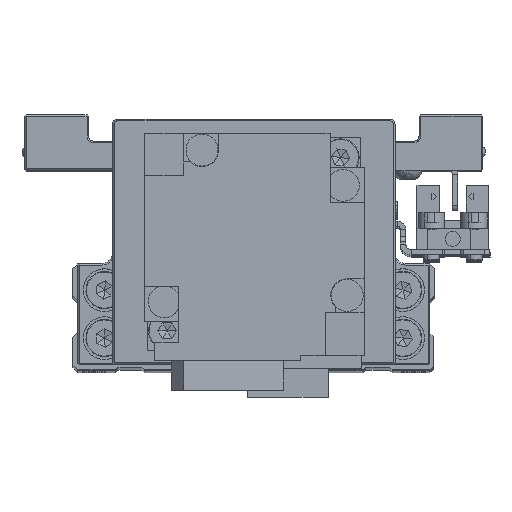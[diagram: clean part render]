
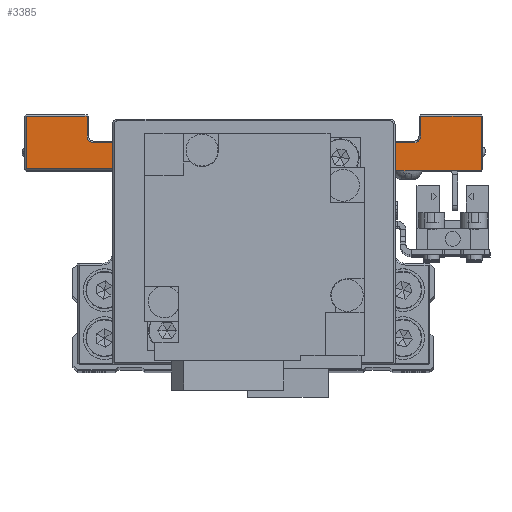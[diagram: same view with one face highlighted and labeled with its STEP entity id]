
A CAD part, top view. The second image highlights one B-rep face of the part: STEP entity #3385.
In plain terms, the highlighted planar face has unit normal (0, 0, 1) as drawn and (1, 0, 0) by its records, which use the part's own axes.
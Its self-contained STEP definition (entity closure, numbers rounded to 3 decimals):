
#498 = DIRECTION ( 'NONE',  ( 0., 1., 0. ) ) ;
#838 = LINE ( 'NONE', #11612, #25899 ) ;
#1078 = VECTOR ( 'NONE', #15720, 1000. ) ;
#1522 = CARTESIAN_POINT ( 'NONE',  ( 45., 14., 31.3 ) ) ;
#1638 = EDGE_CURVE ( 'NONE', #2466, #34713, #28404, .T. ) ;
#2051 = CARTESIAN_POINT ( 'NONE',  ( 45., 14., 30. ) ) ;
#2125 = CARTESIAN_POINT ( 'NONE',  ( 45., 17.7, -42.7 ) ) ;
#2466 = VERTEX_POINT ( 'NONE', #22934 ) ;
#2631 = CARTESIAN_POINT ( 'NONE',  ( 45., 7.8, 42.7 ) ) ;
#2636 = DIRECTION ( 'NONE',  ( 0., 0., 1. ) ) ;
#2905 = VERTEX_POINT ( 'NONE', #20089 ) ;
#3174 = AXIS2_PLACEMENT_3D ( 'NONE', #6225, #16985, #27726 ) ;
#3385 = ADVANCED_FACE ( 'NONE', ( #34243 ), #10126, .F. ) ;
#3640 = EDGE_CURVE ( 'NONE', #14885, #22810, #18398, .T. ) ;
#3825 = LINE ( 'NONE', #14600, #13615 ) ;
#4572 = LINE ( 'NONE', #15340, #20771 ) ;
#4896 = EDGE_CURVE ( 'NONE', #31891, #29689, #10703, .T. ) ;
#4973 = CARTESIAN_POINT ( 'NONE',  ( 45., 7.5, 42.7 ) ) ;
#5332 = DIRECTION ( 'NONE',  ( 0., 0., 1. ) ) ;
#6225 = CARTESIAN_POINT ( 'NONE',  ( 45., 14., -30. ) ) ;
#6741 = CARTESIAN_POINT ( 'NONE',  ( 45., -8.2, 19.7 ) ) ;
#6856 = CARTESIAN_POINT ( 'NONE',  ( 45., 17.7, 31.3 ) ) ;
#7129 = AXIS2_PLACEMENT_3D ( 'NONE', #20876, #31626, #7505 ) ;
#7505 = DIRECTION ( 'NONE',  ( 0., 0., 1. ) ) ;
#7838 = VERTEX_POINT ( 'NONE', #2631 ) ;
#7919 = VERTEX_POINT ( 'NONE', #11107 ) ;
#8081 = EDGE_CURVE ( 'NONE', #29689, #21030, #3825, .T. ) ;
#8840 = ORIENTED_EDGE ( 'NONE', *, *, #26076, .T. ) ;
#9214 = CARTESIAN_POINT ( 'NONE',  ( 45., 7.8, 20. ) ) ;
#9292 = CARTESIAN_POINT ( 'NONE',  ( 45., -8.2, -19.7 ) ) ;
#9507 = VECTOR ( 'NONE', #5332, 1000. ) ;
#9791 = LINE ( 'NONE', #20528, #30257 ) ;
#9869 = VERTEX_POINT ( 'NONE', #6856 ) ;
#10126 = PLANE ( 'NONE',  #7129 ) ;
#10518 = ORIENTED_EDGE ( 'NONE', *, *, #23458, .T. ) ;
#10703 = LINE ( 'NONE', #21445, #22543 ) ;
#10896 = LINE ( 'NONE', #21623, #31001 ) ;
#11107 = CARTESIAN_POINT ( 'NONE',  ( 45., 7.8, 19.7 ) ) ;
#11210 = EDGE_CURVE ( 'NONE', #7838, #7919, #33340, .T. ) ;
#11612 = CARTESIAN_POINT ( 'NONE',  ( 45., 7.5, -31.3 ) ) ;
#11971 = EDGE_CURVE ( 'NONE', #26986, #19994, #32509, .T. ) ;
#12397 = ORIENTED_EDGE ( 'NONE', *, *, #31763, .T. ) ;
#12762 = ORIENTED_EDGE ( 'NONE', *, *, #14914, .T. ) ;
#12827 = DIRECTION ( 'NONE',  ( -1., 0., 0. ) ) ;
#13237 = AXIS2_PLACEMENT_3D ( 'NONE', #2051, #12827, #23545 ) ;
#13615 = VECTOR ( 'NONE', #25321, 1000. ) ;
#13861 = VECTOR ( 'NONE', #27236, 1000. ) ;
#13933 = LINE ( 'NONE', #24660, #29630 ) ;
#14285 = EDGE_CURVE ( 'NONE', #2905, #7838, #29098, .T. ) ;
#14600 = CARTESIAN_POINT ( 'NONE',  ( 45., 7.5, -42.7 ) ) ;
#14885 = VERTEX_POINT ( 'NONE', #16727 ) ;
#14914 = EDGE_CURVE ( 'NONE', #15928, #14885, #838, .T. ) ;
#14930 = VECTOR ( 'NONE', #19954, 1000. ) ;
#15001 = CARTESIAN_POINT ( 'NONE',  ( 45., 17.7, -31.3 ) ) ;
#15049 = CARTESIAN_POINT ( 'NONE',  ( 45., 12.7, -30. ) ) ;
#15340 = CARTESIAN_POINT ( 'NONE',  ( 45., 7.5, 19.7 ) ) ;
#15720 = DIRECTION ( 'NONE',  ( 0., -1., 0. ) ) ;
#15928 = VERTEX_POINT ( 'NONE', #15001 ) ;
#16060 = LINE ( 'NONE', #26788, #24886 ) ;
#16509 = CARTESIAN_POINT ( 'NONE',  ( 45., -8.2, -20. ) ) ;
#16727 = CARTESIAN_POINT ( 'NONE',  ( 45., 14., -31.3 ) ) ;
#16985 = DIRECTION ( 'NONE',  ( -1., 0., 0. ) ) ;
#18070 = ORIENTED_EDGE ( 'NONE', *, *, #27243, .T. ) ;
#18398 = CIRCLE ( 'NONE', #3174, 1.3 ) ;
#18740 = LINE ( 'NONE', #29464, #9507 ) ;
#18844 = CARTESIAN_POINT ( 'NONE',  ( 45., 7.5, -19.7 ) ) ;
#19327 = ORIENTED_EDGE ( 'NONE', *, *, #1638, .T. ) ;
#19954 = DIRECTION ( 'NONE',  ( 0., 0., -1. ) ) ;
#19994 = VERTEX_POINT ( 'NONE', #9292 ) ;
#20089 = CARTESIAN_POINT ( 'NONE',  ( 45., 17.7, 42.7 ) ) ;
#20528 = CARTESIAN_POINT ( 'NONE',  ( 45., 7.5, 31.3 ) ) ;
#20771 = VECTOR ( 'NONE', #26074, 1000. ) ;
#20794 = EDGE_LOOP ( 'NONE', ( #26585, #29640, #25555, #23711, #12762, #27485, #10518, #19327, #8840, #18070, #26854, #32670, #12397, #27094 ) ) ;
#20876 = CARTESIAN_POINT ( 'NONE',  ( 45., 7.5, -20. ) ) ;
#21030 = VERTEX_POINT ( 'NONE', #2125 ) ;
#21445 = CARTESIAN_POINT ( 'NONE',  ( 45., 7.5, 43. ) ) ;
#21623 = CARTESIAN_POINT ( 'NONE',  ( 45., 17.7, -20. ) ) ;
#22338 = DIRECTION ( 'NONE',  ( 0., -1., 0. ) ) ;
#22543 = VECTOR ( 'NONE', #32200, 1000. ) ;
#22810 = VERTEX_POINT ( 'NONE', #15049 ) ;
#22934 = CARTESIAN_POINT ( 'NONE',  ( 45., 12.7, 30. ) ) ;
#23458 = EDGE_CURVE ( 'NONE', #22810, #2466, #16060, .T. ) ;
#23545 = DIRECTION ( 'NONE',  ( 0., 0., 1. ) ) ;
#23711 = ORIENTED_EDGE ( 'NONE', *, *, #33624, .T. ) ;
#24660 = CARTESIAN_POINT ( 'NONE',  ( 45., 7.5, -19.7 ) ) ;
#24886 = VECTOR ( 'NONE', #2636, 1000. ) ;
#24907 = EDGE_CURVE ( 'NONE', #19994, #31891, #13933, .T. ) ;
#25321 = DIRECTION ( 'NONE',  ( 0., 1., 0. ) ) ;
#25555 = ORIENTED_EDGE ( 'NONE', *, *, #8081, .T. ) ;
#25899 = VECTOR ( 'NONE', #22338, 1000. ) ;
#26074 = DIRECTION ( 'NONE',  ( 0., -1., 0. ) ) ;
#26076 = EDGE_CURVE ( 'NONE', #34713, #9869, #9791, .T. ) ;
#26585 = ORIENTED_EDGE ( 'NONE', *, *, #24907, .T. ) ;
#26788 = CARTESIAN_POINT ( 'NONE',  ( 45., 12.7, 30. ) ) ;
#26854 = ORIENTED_EDGE ( 'NONE', *, *, #14285, .T. ) ;
#26986 = VERTEX_POINT ( 'NONE', #6741 ) ;
#27094 = ORIENTED_EDGE ( 'NONE', *, *, #11971, .T. ) ;
#27236 = DIRECTION ( 'NONE',  ( 0., 0., -1. ) ) ;
#27243 = EDGE_CURVE ( 'NONE', #9869, #2905, #18740, .T. ) ;
#27485 = ORIENTED_EDGE ( 'NONE', *, *, #3640, .T. ) ;
#27726 = DIRECTION ( 'NONE',  ( 0., 0., 1. ) ) ;
#28312 = CARTESIAN_POINT ( 'NONE',  ( 45., 7.5, -42.7 ) ) ;
#28404 = CIRCLE ( 'NONE', #13237, 1.3 ) ;
#29098 = LINE ( 'NONE', #4973, #1078 ) ;
#29464 = CARTESIAN_POINT ( 'NONE',  ( 45., 17.7, -20. ) ) ;
#29630 = VECTOR ( 'NONE', #498, 1000. ) ;
#29640 = ORIENTED_EDGE ( 'NONE', *, *, #4896, .T. ) ;
#29689 = VERTEX_POINT ( 'NONE', #28312 ) ;
#30257 = VECTOR ( 'NONE', #31261, 1000. ) ;
#31001 = VECTOR ( 'NONE', #32361, 1000. ) ;
#31261 = DIRECTION ( 'NONE',  ( 0., 1., 0. ) ) ;
#31626 = DIRECTION ( 'NONE',  ( -1., 0., 0. ) ) ;
#31763 = EDGE_CURVE ( 'NONE', #7919, #26986, #4572, .T. ) ;
#31891 = VERTEX_POINT ( 'NONE', #18844 ) ;
#32200 = DIRECTION ( 'NONE',  ( 0., 0., -1. ) ) ;
#32361 = DIRECTION ( 'NONE',  ( 0., 0., 1. ) ) ;
#32509 = LINE ( 'NONE', #16509, #13861 ) ;
#32670 = ORIENTED_EDGE ( 'NONE', *, *, #11210, .T. ) ;
#33340 = LINE ( 'NONE', #9214, #14930 ) ;
#33624 = EDGE_CURVE ( 'NONE', #21030, #15928, #10896, .T. ) ;
#34243 = FACE_OUTER_BOUND ( 'NONE', #20794, .T. ) ;
#34713 = VERTEX_POINT ( 'NONE', #1522 ) ;
